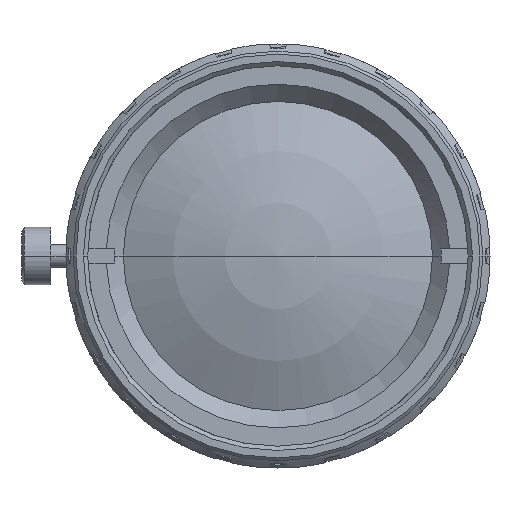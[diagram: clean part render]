
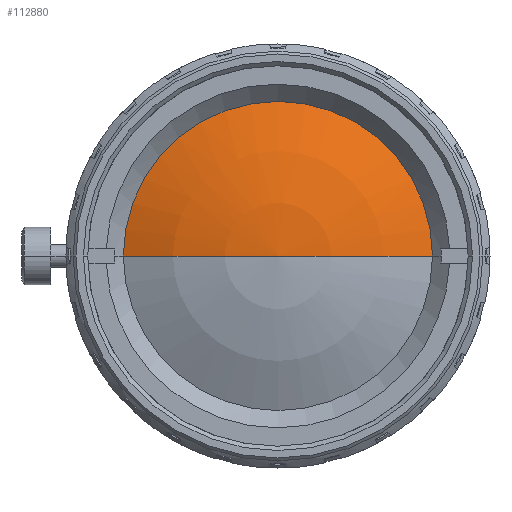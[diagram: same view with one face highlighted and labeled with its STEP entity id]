
A CAD part, left-side view. The second image highlights one B-rep face of the part: STEP entity #112880.
In plain terms, the highlighted spherical face has radius 24.705 mm.
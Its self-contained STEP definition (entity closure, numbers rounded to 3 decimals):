
#105450=CARTESIAN_POINT('',(-35.939,-10.75,0.));
#105460=VERTEX_POINT('',#105450);
#105620=CARTESIAN_POINT('',(-35.939,10.75,0.));
#105630=VERTEX_POINT('',#105620);
#105660=CARTESIAN_POINT('',(-35.939,0.,0.));
#105670=DIRECTION('',(1.,0.,0.));
#105680=DIRECTION('',(0.,-1.,0.));
#105690=AXIS2_PLACEMENT_3D('',#105660,#105670,#105680);
#105700=CIRCLE('',#105690,10.75);
#112680=CARTESIAN_POINT('',(-13.695,0.,0.));
#112690=DIRECTION('',(1.,0.,0.));
#112700=DIRECTION('',(0.,-1.,0.));
#112710=AXIS2_PLACEMENT_3D('',#112680,#112690,#112700);
#112720=SPHERICAL_SURFACE('',#112710,24.705);
#112730=CARTESIAN_POINT('',(-13.695,0.,0.));
#112740=DIRECTION('',(0.,0.,-1.));
#112750=DIRECTION('',(1.,-0.,0.));
#112760=AXIS2_PLACEMENT_3D('',#112730,#112740,#112750);
#112770=CIRCLE('',#112760,24.705);
#112780=CARTESIAN_POINT('',(-38.4,0.,0.));
#112790=VERTEX_POINT('',#112780);
#112800=EDGE_CURVE('',#112790,#105630,#112770,.T.);
#112810=ORIENTED_EDGE('',*,*,#112800,.F.);
#112820=EDGE_CURVE('',#105630,#105460,#105700,.T.);
#112830=ORIENTED_EDGE('',*,*,#112820,.F.);
#112840=EDGE_CURVE('',#105460,#112790,#112770,.T.);
#112850=ORIENTED_EDGE('',*,*,#112840,.F.);
#112860=EDGE_LOOP('',(#112850,#112830,#112810));
#112870=FACE_OUTER_BOUND('',#112860,.T.);
#112880=ADVANCED_FACE('',(#112870),#112720,.T.);
